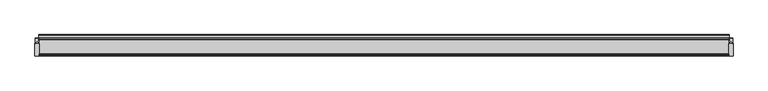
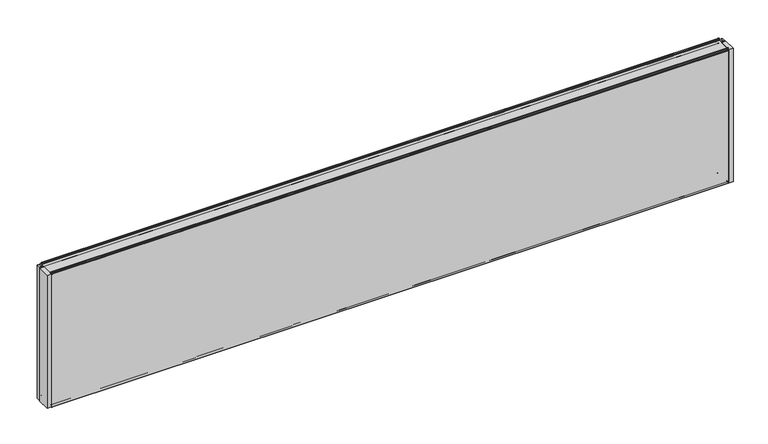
"""IFC4 building model written with IfcOpenShell, lengths in millimetres: plate geometry, Fronttop : Fronttop 150/1000."""

from ifc_helpers import new_model, si_unit, point, frame, frame_2d, origin, origin_with_axes, place, context, project, spatial, polyline, circle_curve, trimmed, segment, composite_curve, outline, extrude, source, transform, mapped, element, save
from ifc_brep_helpers import plane_surface, cylinder_surface, revolved_surface, advanced_brep


def plate_2167fe72(model_context):
    return source(origin(), model_context, "Body", "SolidModel", [
        advanced_brep(
        [(-2404.0, 124.0, 1008.0), (-2404.0, 121.0, 1008.0), (-2404.0, 121.0, 1004.0), (-2404.0, 117.0, 1000.0), (-2404.0, 115.0, 1000.0), (-2404.0, 115.0, 1001.0), (-2404.0, 117.0, 1001.0), (-2404.0, 120.0, 1004.0), (-2404.0, 120.0, 1008.0), (-2404.0, 125.0, 1008.0), (-2404.0, 125.0, 1000.0), (-2404.0, 124.0, 1000.0), (2404.0, 125.0, 1008.0), (2404.0, 120.0, 1008.0), (2404.0, 120.0, 1004.0), (2404.0, 117.0, 1001.0), (2404.0, 115.0, 1001.0), (2404.0, 115.0, 1000.0), (2404.0, 117.0, 1000.0), (2404.0, 121.0, 1004.0), (2404.0, 121.0, 1008.0), (2404.0, 124.0, 1008.0), (2404.0, 124.0, 1000.0), (2404.0, 125.0, 1000.0), (-2404.0, 117.0, 2.0), (2404.0, 117.0, 2.0), (2404.0, 115.0, 2.0), (-2404.0, 115.0, 2.0), (-2404.0, 119.0, 4.0), (2404.0, 119.0, 4.0), (-2404.0, 119.0, 8.0), (2404.0, 119.0, 8.0), (-2404.0, 126.0, 8.0), (2404.0, 126.0, 8.0), (-2404.0, 126.0, 0.0), (2404.0, 126.0, 0.0), (-2404.0, 129.0, -3.0), (2404.0, 129.0, -3.0), (-2404.0, 125.0, -3.0), (-2405.0, 125.0, -3.0), (-2405.0, 147.0, -3.0), (-2404.0, 147.0, -3.0), (2404.0, 147.0, -3.0), (2405.0, 147.0, -3.0), (2405.0, 125.0, -3.0), (2404.0, 125.0, -3.0), (-2404.0, 150.0, 0.0), (2404.0, 150.0, 0.0), (-2405.0, 150.0, 0.0), (-2405.0, 150.0, 969.0), (-2404.0, 150.0, 969.0), (2404.0, 150.0, 969.0), (2405.0, 150.0, 969.0), (2405.0, 150.0, 0.0), (-2404.0, 147.0, 972.0), (2404.0, 147.0, 972.0), (-2405.0, 147.0, 972.0), (-2405.0, 128.0, 972.0), (-2404.0, 128.0, 972.0), (2404.0, 128.0, 972.0), (2405.0, 128.0, 972.0), (2405.0, 147.0, 972.0), (-2404.0, 125.0, 975.0), (2404.0, 125.0, 975.0), (-2405.0, 125.0, 975.0), (-2405.0, 125.0, 1000.0), (2405.0, 125.0, 1000.0), (2405.0, 125.0, 975.0), (-2404.0, 124.0, 975.0), (2404.0, 124.0, 975.0), (-2404.0, 128.0, 971.0), (2404.0, 128.0, 971.0), (-2404.0, 147.0, 971.0), (2404.0, 147.0, 971.0), (-2404.0, 149.0, 969.0), (2404.0, 149.0, 969.0), (-2404.0, 149.0, 0.0), (2404.0, 149.0, 0.0), (-2404.0, 147.0, -2.0), (2404.0, 147.0, -2.0), (-2404.0, 129.0, -2.0), (2404.0, 129.0, -2.0), (-2404.0, 127.0, 0.0), (2404.0, 127.0, 0.0), (-2404.0, 127.0, 8.0), (2404.0, 127.0, 8.0), (-2404.0, 118.0, 8.0), (2404.0, 118.0, 8.0), (-2404.0, 118.0, 4.0), (2404.0, 118.0, 4.0), (-2404.0, 117.0, 3.0), (2404.0, 117.0, 3.0), (-2404.0, 115.0, 3.0), (2404.0, 115.0, 3.0), (2405.0, 110.0, 1000.0), (2405.0, 110.0, 0.0), (2405.0, 125.0, 0.0), (2404.0, 125.0, 0.0), (2404.0, 110.0, 0.0), (2404.0, 110.0, 1000.0), (-2405.0, 125.0, 0.0), (-2405.0, 110.0, 0.0), (-2405.0, 110.0, 1000.0), (-2404.0, 110.0, 1000.0), (-2404.0, 110.0, 0.0), (-2404.0, 125.0, 0.0)],
        [
            (0, 1, circle_curve(frame((-2404.0, 122.5, 1008.0), z_axis=(1.0, 0.0, 0.0), x_axis=(0.0, -1.0, 0.0)), 1.5)),
            (1, 2),
            (2, 3, circle_curve(frame((-2404.0, 117.0, 1004.0), z_axis=(-1.0, 0.0, 0.0), x_axis=(0.0, -1.0, 0.0)), 4.0)),
            (3, 4),
            (4, 5),
            (5, 6),
            (6, 7, circle_curve(frame((-2404.0, 117.0, 1004.0), z_axis=(1.0, 0.0, 0.0), x_axis=(0.0, -1.0, 0.0)), 3.0)),
            (7, 8),
            (8, 9, circle_curve(frame((-2404.0, 122.5, 1008.0), z_axis=(-1.0, 0.0, 0.0), x_axis=(0.0, -1.0, 0.0)), 2.5)),
            (9, 10),
            (10, 11),
            (11, 0),
            (12, 13, circle_curve(frame((2404.0, 122.5, 1008.0), z_axis=(1.0, 0.0, 0.0), x_axis=(0.0, -1.0, 0.0)), 2.5)),
            (13, 14),
            (14, 15, circle_curve(frame((2404.0, 117.0, 1004.0), z_axis=(-1.0, 0.0, 0.0), x_axis=(0.0, -1.0, 0.0)), 3.0)),
            (15, 16),
            (16, 17),
            (17, 18),
            (18, 19, circle_curve(frame((2404.0, 117.0, 1004.0), z_axis=(1.0, 0.0, 0.0), x_axis=(0.0, -1.0, 0.0)), 4.0)),
            (19, 20),
            (20, 21, circle_curve(frame((2404.0, 122.5, 1008.0), z_axis=(-1.0, 0.0, 0.0), x_axis=(0.0, -1.0, 0.0)), 1.5)),
            (21, 22),
            (22, 23),
            (23, 12),
            (24, 25),
            (25, 26),
            (26, 27),
            (27, 24),
            (24, 28, circle_curve(frame((-2404.0, 117.0, 4.0), z_axis=(1.0, 0.0, 0.0), x_axis=(0.0, -1.0, 0.0)), 2.0)),
            (28, 29),
            (29, 25, circle_curve(frame((2404.0, 117.0, 4.0), z_axis=(-1.0, 0.0, 0.0), x_axis=(0.0, -1.0, 0.0)), 2.0)),
            (28, 30),
            (30, 31),
            (31, 29),
            (30, 32, circle_curve(frame((-2404.0, 122.5, 8.0), z_axis=(-1.0, 0.0, 0.0), x_axis=(0.0, -1.0, 0.0)), 3.5)),
            (32, 33),
            (33, 31, circle_curve(frame((2404.0, 122.5, 8.0), z_axis=(1.0, 0.0, 0.0), x_axis=(0.0, -1.0, 0.0)), 3.5)),
            (32, 34),
            (34, 35),
            (35, 33),
            (34, 36, circle_curve(frame((-2404.0, 129.0, 0.0), z_axis=(1.0, 0.0, 0.0), x_axis=(0.0, -1.0, 0.0)), 3.0)),
            (36, 37),
            (37, 35, circle_curve(frame((2404.0, 129.0, 0.0), z_axis=(-1.0, 0.0, 0.0), x_axis=(0.0, -1.0, 0.0)), 3.0)),
            (36, 38),
            (38, 39),
            (39, 40),
            (40, 41),
            (41, 42),
            (42, 43),
            (43, 44),
            (44, 45),
            (45, 37),
            (41, 46, circle_curve(frame((-2404.0, 147.0, 0.0), z_axis=(1.0, 0.0, 0.0), x_axis=(0.0, -1.0, 0.0)), 3.0)),
            (46, 47),
            (47, 42, circle_curve(frame((2404.0, 147.0, 0.0), z_axis=(-1.0, 0.0, 0.0), x_axis=(0.0, -1.0, 0.0)), 3.0)),
            (46, 48),
            (48, 49),
            (49, 50),
            (50, 51),
            (51, 52),
            (52, 53),
            (53, 47),
            (50, 54, circle_curve(frame((-2404.0, 147.0, 969.0), z_axis=(1.0, 0.0, 0.0), x_axis=(0.0, -1.0, 0.0)), 3.0)),
            (54, 55),
            (55, 51, circle_curve(frame((2404.0, 147.0, 969.0), z_axis=(-1.0, 0.0, 0.0), x_axis=(0.0, -1.0, 0.0)), 3.0)),
            (54, 56),
            (56, 57),
            (57, 58),
            (58, 59),
            (59, 60),
            (60, 61),
            (61, 55),
            (58, 62, circle_curve(frame((-2404.0, 128.0, 975.0), z_axis=(-1.0, 0.0, 0.0), x_axis=(0.0, -1.0, 0.0)), 3.0)),
            (62, 63),
            (63, 59, circle_curve(frame((2404.0, 128.0, 975.0), z_axis=(1.0, 0.0, 0.0), x_axis=(0.0, -1.0, 0.0)), 3.0)),
            (62, 64),
            (64, 65),
            (65, 10),
            (9, 12),
            (23, 66),
            (66, 67),
            (67, 63),
            (8, 13),
            (7, 14),
            (6, 15),
            (5, 16),
            (4, 17),
            (4, 3),
            (3, 18),
            (18, 17),
            (2, 19),
            (1, 20),
            (0, 21),
            (11, 68),
            (68, 69),
            (69, 22),
            (68, 70, circle_curve(frame((-2404.0, 128.0, 975.0), z_axis=(1.0, 0.0, 0.0), x_axis=(0.0, -1.0, 0.0)), 4.0)),
            (70, 71),
            (71, 69, circle_curve(frame((2404.0, 128.0, 975.0), z_axis=(-1.0, 0.0, 0.0), x_axis=(0.0, -1.0, 0.0)), 4.0)),
            (70, 72),
            (72, 73),
            (73, 71),
            (72, 74, circle_curve(frame((-2404.0, 147.0, 969.0), z_axis=(-1.0, 0.0, 0.0), x_axis=(0.0, -1.0, 0.0)), 2.0)),
            (74, 75),
            (75, 73, circle_curve(frame((2404.0, 147.0, 969.0), z_axis=(1.0, 0.0, 0.0), x_axis=(0.0, -1.0, 0.0)), 2.0)),
            (74, 76),
            (76, 77),
            (77, 75),
            (76, 78, circle_curve(frame((-2404.0, 147.0, 0.0), z_axis=(-1.0, 0.0, 0.0), x_axis=(0.0, -1.0, 0.0)), 2.0)),
            (78, 79),
            (79, 77, circle_curve(frame((2404.0, 147.0, 0.0), z_axis=(1.0, 0.0, 0.0), x_axis=(0.0, -1.0, 0.0)), 2.0)),
            (78, 80),
            (80, 81),
            (81, 79),
            (80, 82, circle_curve(frame((-2404.0, 129.0, 0.0), z_axis=(-1.0, 0.0, 0.0), x_axis=(0.0, -1.0, 0.0)), 2.0)),
            (82, 83),
            (83, 81, circle_curve(frame((2404.0, 129.0, 0.0), z_axis=(1.0, 0.0, 0.0), x_axis=(0.0, -1.0, 0.0)), 2.0)),
            (82, 84),
            (84, 85),
            (85, 83),
            (84, 86, circle_curve(frame((-2404.0, 122.5, 8.0), z_axis=(1.0, 0.0, 0.0), x_axis=(0.0, -1.0, 0.0)), 4.5)),
            (86, 87),
            (87, 85, circle_curve(frame((2404.0, 122.5, 8.0), z_axis=(-1.0, 0.0, 0.0), x_axis=(0.0, -1.0, 0.0)), 4.5)),
            (86, 88),
            (88, 89),
            (89, 87),
            (88, 90, circle_curve(frame((-2404.0, 117.0, 4.0), z_axis=(-1.0, 0.0, 0.0), x_axis=(0.0, -1.0, 0.0)), 1.0)),
            (90, 91),
            (91, 89, circle_curve(frame((2404.0, 117.0, 4.0), z_axis=(1.0, 0.0, 0.0), x_axis=(0.0, -1.0, 0.0)), 1.0)),
            (90, 92),
            (92, 93),
            (93, 91),
            (26, 93),
            (92, 27),
            (66, 94),
            (94, 95),
            (95, 96),
            (96, 44),
            (43, 53, circle_curve(frame((2405.0, 147.0, 0.0), z_axis=(1.0, 0.0, 0.0), x_axis=(0.0, 1.0, 0.0)), 3.0)),
            (52, 61, circle_curve(frame((2405.0, 147.0, 969.0), z_axis=(1.0, 0.0, 0.0), x_axis=(0.0, 1.0, 0.0)), 3.0)),
            (60, 67, circle_curve(frame((2405.0, 128.0, 975.0), z_axis=(-1.0, 0.0, 0.0), x_axis=(0.0, 1.0, 0.0)), 3.0)),
            (45, 97),
            (97, 98),
            (98, 99),
            (99, 17),
            (18, 22),
            (99, 94),
            (98, 95),
            (97, 96),
            (64, 57, circle_curve(frame((-2405.0, 128.0, 975.0), z_axis=(1.0, 0.0, 0.0), x_axis=(0.0, 1.0, 0.0)), 3.0)),
            (56, 49, circle_curve(frame((-2405.0, 147.0, 969.0), z_axis=(-1.0, 0.0, 0.0), x_axis=(0.0, 1.0, 0.0)), 3.0)),
            (48, 40, circle_curve(frame((-2405.0, 147.0, 0.0), z_axis=(-1.0, 0.0, 0.0), x_axis=(0.0, 1.0, 0.0)), 3.0)),
            (39, 100),
            (100, 101),
            (101, 102),
            (102, 65),
            (103, 104),
            (104, 105),
            (105, 38),
            (11, 3),
            (4, 103),
            (102, 103),
            (101, 104),
            (100, 105),
        ],
        [
            plane_surface(frame((-2404.0, 0.0, 0.0), z_axis=(-1.0, 0.0, 0.0), x_axis=(0.0, 0.0, 1.0))),
            plane_surface(frame((2404.0, 0.0, 0.0), z_axis=(1.0, 0.0, 0.0), x_axis=(0.0, 0.0, 1.0))),
            plane_surface(frame((-2404.0, 117.0, 2.0), z_axis=(0.0, 0.0, -1.0), x_axis=(1.0, 0.0, 0.0))),
            cylinder_surface(frame((-2404.0, 117.0, 4.0), z_axis=(-1.0, 0.0, 0.0), x_axis=(0.0, -1.0, 0.0)), 2.0),
            plane_surface(frame((-2404.0, 119.0, 8.0), z_axis=(0.0, 1.0, 0.0), x_axis=(1.0, 0.0, 0.0))),
            revolved_surface(polyline([(2404.0, 119.0, 8.0), (-2404.0, 119.0, 8.0)]), (-2404.0, 122.5, 8.0), (1.0, 0.0, 0.0)),
            plane_surface(frame((-2404.0, 126.0, 0.0), z_axis=(0.0, -1.0, 0.0), x_axis=(1.0, 0.0, 0.0))),
            cylinder_surface(frame((-2404.0, 129.0, 0.0), z_axis=(-1.0, 0.0, 0.0), x_axis=(0.0, -1.0, 0.0)), 3.0),
            plane_surface(frame((-2404.0, 147.0, -3.0), z_axis=(0.0, 0.0, -1.0), x_axis=(1.0, 0.0, 0.0))),
            cylinder_surface(frame((-2404.0, 147.0, 0.0), z_axis=(-1.0, 0.0, 0.0), x_axis=(0.0, -1.0, 0.0)), 3.0),
            plane_surface(frame((-2404.0, 150.0, 969.0), z_axis=(0.0, 1.0, 0.0), x_axis=(1.0, 0.0, 0.0))),
            cylinder_surface(frame((-2404.0, 147.0, 969.0), z_axis=(-1.0, 0.0, 0.0), x_axis=(0.0, -1.0, 0.0)), 3.0),
            plane_surface(frame((-2404.0, 128.0, 972.0), z_axis=(0.0, 0.0, 1.0), x_axis=(1.0, 0.0, 0.0))),
            revolved_surface(polyline([(2404.0, 125.0, 975.0), (-2404.0, 125.0, 975.0)]), (-2404.0, 128.0, 975.0), (1.0, 0.0, 0.0)),
            plane_surface(frame((-2404.0, 125.0, 1008.0), z_axis=(0.0, 1.0, 0.0), x_axis=(1.0, 0.0, 0.0))),
            cylinder_surface(frame((-2404.0, 122.5, 1008.0), z_axis=(-1.0, 0.0, 0.0), x_axis=(0.0, -1.0, 0.0)), 2.5),
            plane_surface(frame((-2404.0, 120.0, 1004.0), z_axis=(0.0, -1.0, 0.0), x_axis=(1.0, 0.0, 0.0))),
            revolved_surface(polyline([(2404.0, 114.0, 1004.0), (-2404.0, 114.0, 1004.0)]), (-2404.0, 117.0, 1004.0), (1.0, 0.0, 0.0)),
            plane_surface(frame((-2404.0, 115.0, 1001.0), z_axis=(0.0, 0.0, 1.0), x_axis=(1.0, 0.0, 0.0))),
            plane_surface(frame((-2404.0, 115.0, 1000.0), z_axis=(0.0, -1.0, 0.0), x_axis=(1.0, 0.0, 0.0))),
            plane_surface(frame((-2404.0, 117.0, 1000.0), z_axis=(0.0, 0.0, -1.0), x_axis=(1.0, 0.0, 0.0))),
            cylinder_surface(frame((-2404.0, 117.0, 1004.0), z_axis=(-1.0, 0.0, 0.0), x_axis=(0.0, -1.0, 0.0)), 4.0),
            plane_surface(frame((-2404.0, 121.0, 1008.0), z_axis=(0.0, 1.0, 0.0), x_axis=(1.0, 0.0, 0.0))),
            revolved_surface(polyline([(2404.0, 121.0, 1008.0), (-2404.0, 121.0, 1008.0)]), (-2404.0, 122.5, 1008.0), (1.0, 0.0, 0.0)),
            plane_surface(frame((-2404.0, 124.0, 975.0), z_axis=(0.0, -1.0, 0.0), x_axis=(1.0, 0.0, 0.0))),
            cylinder_surface(frame((-2404.0, 128.0, 975.0), z_axis=(-1.0, 0.0, 0.0), x_axis=(0.0, -1.0, 0.0)), 4.0),
            plane_surface(frame((-2404.0, 147.0, 971.0), z_axis=(0.0, 0.0, -1.0), x_axis=(1.0, 0.0, 0.0))),
            revolved_surface(polyline([(2404.0, 145.0, 969.0), (-2404.0, 145.0, 969.0)]), (-2404.0, 147.0, 969.0), (1.0, 0.0, 0.0)),
            plane_surface(frame((-2404.0, 149.0, 0.0), z_axis=(0.0, -1.0, 0.0), x_axis=(1.0, 0.0, 0.0))),
            revolved_surface(polyline([(2404.0, 145.0, 0.0), (-2404.0, 145.0, 0.0)]), (-2404.0, 147.0, 0.0), (1.0, 0.0, 0.0)),
            plane_surface(frame((-2404.0, 129.0, -2.0), z_axis=(0.0, 0.0, 1.0), x_axis=(1.0, 0.0, 0.0))),
            revolved_surface(polyline([(2404.0, 127.0, 0.0), (-2404.0, 127.0, 0.0)]), (-2404.0, 129.0, 0.0), (1.0, 0.0, 0.0)),
            plane_surface(frame((-2404.0, 127.0, 8.0), z_axis=(0.0, 1.0, 0.0), x_axis=(1.0, 0.0, 0.0))),
            cylinder_surface(frame((-2404.0, 122.5, 8.0), z_axis=(-1.0, 0.0, 0.0), x_axis=(0.0, -1.0, 0.0)), 4.5),
            plane_surface(frame((-2404.0, 118.0, 4.0), z_axis=(0.0, -1.0, 0.0), x_axis=(1.0, 0.0, 0.0))),
            revolved_surface(polyline([(2404.0, 116.0, 4.0), (-2404.0, 116.0, 4.0)]), (-2404.0, 117.0, 4.0), (1.0, 0.0, 0.0)),
            plane_surface(frame((-2404.0, 115.0, 3.0), z_axis=(0.0, 0.0, 1.0), x_axis=(1.0, 0.0, 0.0))),
            plane_surface(frame((-2404.0, 115.0, 2.0), z_axis=(0.0, -1.0, 0.0), x_axis=(1.0, 0.0, 0.0))),
            plane_surface(frame((2405.0, 125.0, 1000.0), z_axis=(1.0, 0.0, 0.0), x_axis=(0.0, -1.0, 0.0))),
            plane_surface(frame((2404.0, 125.0, 1000.0), z_axis=(-1.0, 0.0, 0.0), x_axis=(0.0, 1.0, 0.0))),
            plane_surface(frame((2405.0, 125.0, 1000.0), z_axis=(0.0, 0.0, 1.0), x_axis=(-1.0, 0.0, 0.0))),
            plane_surface(frame((2405.0, 110.0, 1000.0), z_axis=(0.0, -1.0, 0.0), x_axis=(-1.0, 0.0, 0.0))),
            plane_surface(frame((2405.0, 110.0, 0.0), z_axis=(0.0, 0.0, -1.0), x_axis=(-1.0, 0.0, 0.0))),
            cylinder_surface(frame((2404.0, 147.0, 0.0), z_axis=(1.0, 0.0, 0.0), x_axis=(0.0, 1.0, 0.0)), 3.0),
            cylinder_surface(frame((2404.0, 147.0, 969.0), z_axis=(1.0, 0.0, 0.0), x_axis=(0.0, 1.0, 0.0)), 3.0),
            revolved_surface(polyline([(2404.0, 131.0, 975.0), (2405.0, 131.0, 975.0)]), (2404.0, 128.0, 975.0), (-1.0, 0.0, 0.0)),
            plane_surface(frame((-2405.0, 125.0, 1000.0), z_axis=(-1.0, 0.0, 0.0), x_axis=(0.0, 1.0, 0.0))),
            plane_surface(frame((-2404.0, 125.0, 1000.0), z_axis=(1.0, 0.0, 0.0), x_axis=(0.0, -1.0, 0.0))),
            plane_surface(frame((-2404.0, 125.0, 1000.0), z_axis=(0.0, 0.0, 1.0), x_axis=(-1.0, 0.0, 0.0))),
            plane_surface(frame((-2404.0, 110.0, 1000.0), z_axis=(0.0, -1.0, 0.0), x_axis=(-1.0, 0.0, 0.0))),
            plane_surface(frame((-2404.0, 110.0, 0.0), z_axis=(0.0, 0.0, -1.0), x_axis=(-1.0, 0.0, 0.0))),
            cylinder_surface(frame((-2405.0, 147.0, 0.0), z_axis=(1.0, 0.0, 0.0), x_axis=(0.0, 1.0, 0.0)), 3.0),
            cylinder_surface(frame((-2405.0, 147.0, 969.0), z_axis=(1.0, 0.0, 0.0), x_axis=(0.0, 1.0, 0.0)), 3.0),
            revolved_surface(polyline([(-2405.0, 131.0, 975.0), (-2404.0, 131.0, 975.0)]), (-2405.0, 128.0, 975.0), (-1.0, 0.0, 0.0)),
            plane_surface(frame((2405.0, 125.0, 0.0), z_axis=(0.0, -1.0, 0.0), x_axis=(-1.0, 0.0, 0.0))),
            plane_surface(frame((-2404.0, 125.0, 0.0), z_axis=(0.0, -1.0, 0.0), x_axis=(-1.0, 0.0, 0.0))),
        ],
        [
            (0, [[1, 2, 3, 4, 5, 6, 7, 8, 9, 10, 11, 12]]),
            (1, [[13, 14, 15, 16, 17, 18, 19, 20, 21, 22, 23, 24]]),
            (2, [[25, 26, 27, 28]]),
            (3, [[-25, 29, 30, 31]]),
            (4, [[-30, 32, 33, 34]]),
            (5, [[-33, 35, 36, 37]]),
            (6, [[-36, 38, 39, 40]]),
            (7, [[-39, 41, 42, 43]]),
            (8, [[-42, 44, 45, 46, 47, 48, 49, 50, 51, 52]]),
            (9, [[-48, 53, 54, 55]]),
            (10, [[-54, 56, 57, 58, 59, 60, 61, 62]]),
            (11, [[-59, 63, 64, 65]]),
            (12, [[-64, 66, 67, 68, 69, 70, 71, 72]]),
            (13, [[-69, 73, 74, 75]]),
            (14, [[-74, 76, 77, 78, -10, 79, -24, 80, 81, 82]]),
            (15, [[-9, 83, -13, -79]]),
            (16, [[-8, 84, -14, -83]]),
            (17, [[-7, 85, -15, -84]]),
            (18, [[-6, 86, -16, -85]]),
            (19, [[-5, 87, -17, -86]]),
            (20, [[-87, 88, 89, 90]]),
            (21, [[-3, 91, -19, -89]]),
            (22, [[-2, 92, -20, -91]]),
            (23, [[-1, 93, -21, -92]]),
            (24, [[-93, -12, 94, 95, 96, -22]]),
            (25, [[-95, 97, 98, 99]]),
            (26, [[-98, 100, 101, 102]]),
            (27, [[-101, 103, 104, 105]]),
            (28, [[-104, 106, 107, 108]]),
            (29, [[-107, 109, 110, 111]]),
            (30, [[-110, 112, 113, 114]]),
            (31, [[-113, 115, 116, 117]]),
            (32, [[-116, 118, 119, 120]]),
            (33, [[-119, 121, 122, 123]]),
            (34, [[-122, 124, 125, 126]]),
            (35, [[-125, 127, 128, 129]]),
            (36, [[-128, 130, 131, 132]]),
            (37, [[-27, 133, -131, 134]]),
            (38, [[135, 136, 137, 138, -50, 139, -61, 140, -71, 141, -81]]),
            (39, [[142, 143, 144, 145, -90, 146, -96, -99, -102, -105, -108, -111, -114, -117, -120, -123, -126, -129, -132, -133, -26, -31, -34, -37, -40, -43, -52]]),
            (40, [[-135, -80, -23, -146, -18, -145, 147]]),
            (41, [[-136, -147, -144, 148]]),
            (42, [[-137, -148, -143, 149]]),
            (43, [[-139, -49, -55, -62]]),
            (44, [[-140, -60, -65, -72]]),
            (45, [[-141, -70, -75, -82]]),
            (46, [[-77, 150, -67, 151, -57, 152, -46, 153, 154, 155, 156]]),
            (47, [[157, 158, 159, -44, -41, -38, -35, -32, -29, -28, -134, -130, -127, -124, -121, -118, -115, -112, -109, -106, -103, -100, -97, -94, 160, -88, 161]]),
            (48, [[-156, 162, -161, -4, -160, -11, -78]]),
            (49, [[-155, 163, -157, -162]]),
            (50, [[-154, 164, -158, -163]]),
            (51, [[-152, -56, -53, -47]]),
            (52, [[-151, -66, -63, -58]]),
            (53, [[-150, -76, -73, -68]]),
            (54, [[-138, -149, -142, -51]]),
            (55, [[-153, -45, -159, -164]]),
        ],
    ),
        extrude(outline(composite_curve([segment(polyline([(-2430.0001545, 123.5), (-2418.25, 123.5), (-2418.25, 107.5), (-2416.75, 107.5), (-2416.75, 123.5), (-2404.9998455, 123.5), (-2404.9998455, 90.0), (-2407.75, 90.0), (-2407.75, 92.5)]), True, "CONTINUOUS"), segment(trimmed(circle_curve(frame_2d((-2425.5338021, 89.3183984)), 18.0661619), [point((-2407.75, 92.5))], [point((-2417.5, 105.5))], True, "CARTESIAN"), True, "CONTINUOUS"), segment(trimmed(circle_curve(frame_2d((-2409.4661979, 89.3183984)), 18.0661619), [point((-2417.5, 105.5))], [point((-2427.25, 92.5))], True, "CARTESIAN"), True, "CONTINUOUS"), segment(polyline([(-2427.25, 92.5), (-2427.25, 90.0), (-2430.0001545, 90.0), (-2430.0001545, 123.5)]), True, "CONTINUOUS")], self_intersect=False)), origin_with_axes(), (0.0, 0.0, 1.0), 1000.0),
        extrude(outline(polyline([(-2402.0, 0.0), (-2433.0, 0.0), (-2433.0, 88.0), (-2402.0, 88.0), (-2402.0, 0.0)])), origin_with_axes(), (0.0, 0.0, 1.0), 1000.0),
        extrude(outline(polyline([(-2429.0051154, 125.0), (-2405.9948846, 125.0), (-2405.9948846, 123.5), (-2416.8497504, 123.5), (-2416.8497504, 109.0759655), (-2418.15, 109.0759655), (-2418.15, 123.5), (-2429.0051154, 123.5), (-2429.0051154, 125.0)])), origin_with_axes(), (0.0, 0.0, 1.0), 1000.0),
        extrude(outline(composite_curve([segment(polyline([(2404.9998455, 123.5), (2416.75, 123.5), (2416.75, 107.5), (2418.25, 107.5), (2418.25, 123.5), (2430.0001545, 123.5), (2430.0001545, 90.0), (2427.25, 90.0), (2427.25, 92.5)]), True, "CONTINUOUS"), segment(trimmed(circle_curve(frame_2d((2409.4661979, 89.3183984)), 18.0661619), [point((2427.25, 92.5))], [point((2417.5, 105.5))], True, "CARTESIAN"), True, "CONTINUOUS"), segment(trimmed(circle_curve(frame_2d((2425.5338021, 89.3183984)), 18.0661619), [point((2417.5, 105.5))], [point((2407.75, 92.5))], True, "CARTESIAN"), True, "CONTINUOUS"), segment(polyline([(2407.75, 92.5), (2407.75, 90.0), (2404.9998455, 90.0), (2404.9998455, 123.5)]), True, "CONTINUOUS")], self_intersect=False)), origin_with_axes(), (0.0, 0.0, 1.0), 1000.0),
        extrude(outline(polyline([(2433.0, 0.0), (2402.0, 0.0), (2402.0, 88.0), (2433.0, 88.0), (2433.0, 0.0)])), origin_with_axes(), (0.0, 0.0, 1.0), 1000.0),
        extrude(outline(polyline([(2405.9948846, 125.0), (2429.0051154, 125.0), (2429.0051154, 123.5), (2418.1502496, 123.5), (2418.1502496, 109.0759655), (2416.85, 109.0759655), (2416.85, 123.5), (2405.9948846, 123.5), (2405.9948846, 125.0)])), origin_with_axes(), (0.0, 0.0, 1.0), 1000.0),
        advanced_brep(
        [(-2402.0, 13.0, 1001.0), (-2402.0, 15.0, 1001.0), (-2402.0, 15.0, 1000.0), (-2402.0, 13.0, 1000.0), (-2402.0, 9.0, 1004.0), (-2402.0, 9.0, 1008.0), (-2402.0, 6.0, 1008.0), (-2402.0, 6.0, 999.5), (-2402.0, 2.1134897, 996.0214069), (-2402.0, 1.0, 995.0), (-2402.0, 1.0, -0.5), (-2402.0, 3.0, -0.5), (-2402.0, 3.0, 8.0), (-2402.0, 12.0, 8.0), (-2402.0, 12.0, 4.0), (-2402.0, 13.0, 3.0), (-2402.0, 15.0, 3.0), (-2402.0, 15.0, 2.0), (-2402.0, 13.0, 2.0), (-2402.0, 11.0, 4.0), (-2402.0, 11.0, 8.0), (-2402.0, 4.0, 8.0), (-2402.0, 4.0, -0.5), (-2402.0, 0.0, -0.5), (-2402.0, 0.0, 995.0), (-2402.0, 2.220863, 996.9877675), (-2402.0, 5.0, 999.5), (-2402.0, 5.0, 1008.0), (-2402.0, 10.0, 1008.0), (-2402.0, 10.0, 1004.0), (2402.0, 13.0, 1001.0), (2402.0, 10.0, 1004.0), (2402.0, 10.0, 1008.0), (2402.0, 5.0, 1008.0), (2402.0, 5.0, 999.5), (2402.0, 2.2239212, 997.0152907), (2402.0, 0.0, 995.0), (2402.0, 0.0, -0.5), (2402.0, 4.0, -0.5), (2402.0, 4.0, 8.0), (2402.0, 11.0, 8.0), (2402.0, 11.0, 4.0), (2402.0, 13.0, 2.0), (2402.0, 15.0, 2.0), (2402.0, 15.0, 3.0), (2402.0, 13.0, 3.0), (2402.0, 12.0, 4.0), (2402.0, 12.0, 8.0), (2402.0, 3.0, 8.0), (2402.0, 3.0, -0.5), (2402.0, 1.0, -0.5), (2402.0, 1.0, 995.0), (2402.0, 2.1104315, 995.9938837), (2402.0, 6.0, 999.5), (2402.0, 6.0, 1008.0), (2402.0, 9.0, 1008.0), (2402.0, 9.0, 1004.0), (2402.0, 13.0, 1000.0), (2402.0, 15.0, 1000.0), (2402.0, 15.0, 1001.0)],
        [
            (0, 1),
            (1, 2),
            (2, 3),
            (3, 4, circle_curve(frame((-2402.0, 13.0, 1004.0), z_axis=(-1.0, 0.0, 0.0), x_axis=(0.0, -1.0, 0.0)), 4.0)),
            (4, 5),
            (5, 6, circle_curve(frame((-2402.0, 7.5, 1008.0), z_axis=(1.0, 0.0, 0.0), x_axis=(0.0, -1.0, 0.0)), 1.5)),
            (6, 7),
            (7, 8, circle_curve(frame((-2402.0, 2.5, 999.5), z_axis=(-1.0, 0.0, 0.0), x_axis=(0.0, -1.0, 0.0)), 3.5)),
            (8, 9, circle_curve(frame((-2402.0, 2.0, 995.0), z_axis=(1.0, 0.0, 0.0), x_axis=(0.0, -1.0, 0.0)), 1.0)),
            (9, 10),
            (10, 11, circle_curve(frame((-2402.0, 2.0, -0.5), z_axis=(1.0, 0.0, 0.0), x_axis=(0.0, -1.0, 0.0)), 1.0)),
            (11, 12),
            (12, 13, circle_curve(frame((-2402.0, 7.5, 8.0), z_axis=(-1.0, 0.0, 0.0), x_axis=(0.0, -1.0, 0.0)), 4.5)),
            (13, 14),
            (14, 15, circle_curve(frame((-2402.0, 13.0, 4.0), z_axis=(1.0, 0.0, 0.0), x_axis=(0.0, -1.0, 0.0)), 1.0)),
            (15, 16),
            (16, 17),
            (17, 18),
            (18, 19, circle_curve(frame((-2402.0, 13.0, 4.0), z_axis=(-1.0, 0.0, 0.0), x_axis=(0.0, -1.0, 0.0)), 2.0)),
            (19, 20),
            (20, 21, circle_curve(frame((-2402.0, 7.5, 8.0), z_axis=(1.0, 0.0, 0.0), x_axis=(0.0, -1.0, 0.0)), 3.5)),
            (21, 22),
            (22, 23, circle_curve(frame((-2402.0, 2.0, -0.5), z_axis=(-1.0, 0.0, 0.0), x_axis=(0.0, -1.0, 0.0)), 2.0)),
            (23, 24),
            (24, 25, circle_curve(frame((-2402.0, 2.0, 995.0), z_axis=(-1.0, 0.0, 0.0), x_axis=(0.0, -1.0, 0.0)), 2.0)),
            (25, 26, circle_curve(frame((-2402.0, 2.5, 999.5), z_axis=(1.0, 0.0, 0.0), x_axis=(0.0, -1.0, 0.0)), 2.5)),
            (26, 27),
            (27, 28, circle_curve(frame((-2402.0, 7.5, 1008.0), z_axis=(-1.0, 0.0, 0.0), x_axis=(0.0, -1.0, 0.0)), 2.5)),
            (28, 29),
            (29, 0, circle_curve(frame((-2402.0, 13.0, 1004.0), z_axis=(1.0, 0.0, 0.0), x_axis=(0.0, -1.0, 0.0)), 3.0)),
            (30, 31, circle_curve(frame((2402.0, 13.0, 1004.0), z_axis=(-1.0, 0.0, 0.0), x_axis=(0.0, -1.0, 0.0)), 3.0)),
            (31, 32),
            (32, 33, circle_curve(frame((2402.0, 7.5, 1008.0), z_axis=(1.0, 0.0, 0.0), x_axis=(0.0, -1.0, 0.0)), 2.5)),
            (33, 34),
            (34, 35, circle_curve(frame((2402.0, 2.5, 999.5), z_axis=(-1.0, 0.0, 0.0), x_axis=(0.0, -1.0, 0.0)), 2.5)),
            (35, 36, circle_curve(frame((2402.0, 2.0, 995.0), z_axis=(1.0, 0.0, 0.0), x_axis=(0.0, -1.0, 0.0)), 2.0)),
            (36, 37),
            (37, 38, circle_curve(frame((2402.0, 2.0, -0.5), z_axis=(1.0, 0.0, 0.0), x_axis=(0.0, -1.0, 0.0)), 2.0)),
            (38, 39),
            (39, 40, circle_curve(frame((2402.0, 7.5, 8.0), z_axis=(-1.0, 0.0, 0.0), x_axis=(0.0, -1.0, 0.0)), 3.5)),
            (40, 41),
            (41, 42, circle_curve(frame((2402.0, 13.0, 4.0), z_axis=(1.0, 0.0, 0.0), x_axis=(0.0, -1.0, 0.0)), 2.0)),
            (42, 43),
            (43, 44),
            (44, 45),
            (45, 46, circle_curve(frame((2402.0, 13.0, 4.0), z_axis=(-1.0, 0.0, 0.0), x_axis=(0.0, -1.0, 0.0)), 1.0)),
            (46, 47),
            (47, 48, circle_curve(frame((2402.0, 7.5, 8.0), z_axis=(1.0, 0.0, 0.0), x_axis=(0.0, -1.0, 0.0)), 4.5)),
            (48, 49),
            (49, 50, circle_curve(frame((2402.0, 2.0, -0.5), z_axis=(-1.0, 0.0, 0.0), x_axis=(0.0, -1.0, 0.0)), 1.0)),
            (50, 51),
            (51, 52, circle_curve(frame((2402.0, 2.0, 995.0), z_axis=(-1.0, 0.0, 0.0), x_axis=(0.0, -1.0, 0.0)), 1.0)),
            (52, 53, circle_curve(frame((2402.0, 2.5, 999.5), z_axis=(1.0, 0.0, 0.0), x_axis=(0.0, -1.0, 0.0)), 3.5)),
            (53, 54),
            (54, 55, circle_curve(frame((2402.0, 7.5, 1008.0), z_axis=(-1.0, 0.0, 0.0), x_axis=(0.0, -1.0, 0.0)), 1.5)),
            (55, 56),
            (56, 57, circle_curve(frame((2402.0, 13.0, 1004.0), z_axis=(1.0, 0.0, 0.0), x_axis=(0.0, -1.0, 0.0)), 4.0)),
            (57, 58),
            (58, 59),
            (59, 30),
            (0, 30),
            (59, 1),
            (58, 2),
            (57, 3),
            (56, 4),
            (55, 5),
            (54, 6),
            (53, 7),
            (52, 8),
            (51, 9),
            (50, 10),
            (49, 11),
            (48, 12),
            (47, 13),
            (46, 14),
            (45, 15),
            (44, 16),
            (43, 17),
            (42, 18),
            (41, 19),
            (40, 20),
            (39, 21),
            (38, 22),
            (37, 23),
            (36, 24),
            (35, 25),
            (34, 26),
            (33, 27),
            (32, 28),
            (31, 29),
        ],
        [
            plane_surface(frame((-2402.0, 0.0, 0.0), z_axis=(-1.0, 0.0, 0.0), x_axis=(0.0, 0.0, 1.0))),
            plane_surface(frame((2402.0, 0.0, 0.0), z_axis=(1.0, 0.0, 0.0), x_axis=(0.0, 0.0, 1.0))),
            plane_surface(frame((-2402.0, 13.0, 1001.0), z_axis=(0.0, 0.0, 1.0), x_axis=(1.0, 0.0, 0.0))),
            plane_surface(frame((-2402.0, 15.0, 1001.0), z_axis=(0.0, 1.0, 0.0), x_axis=(1.0, 0.0, 0.0))),
            plane_surface(frame((-2402.0, 15.0, 1000.0), z_axis=(0.0, 0.0, -1.0), x_axis=(1.0, 0.0, 0.0))),
            cylinder_surface(frame((-2402.0, 13.0, 1004.0), z_axis=(-1.0, 0.0, 0.0), x_axis=(0.0, -1.0, 0.0)), 4.0),
            plane_surface(frame((-2402.0, 9.0, 1004.0), z_axis=(0.0, -1.0, 0.0), x_axis=(1.0, 0.0, 0.0))),
            revolved_surface(polyline([(2402.0, 6.0, 1008.0), (-2402.0, 6.0, 1008.0)]), (-2402.0, 7.5, 1008.0), (1.0, 0.0, 0.0)),
            plane_surface(frame((-2402.0, 6.0, 1008.0), z_axis=(0.0, 1.0, 0.0), x_axis=(1.0, 0.0, 0.0))),
            cylinder_surface(frame((-2402.0, 2.5, 999.5), z_axis=(-1.0, 0.0, 0.0), x_axis=(0.0, -1.0, 0.0)), 3.5),
            revolved_surface(polyline([(2402.0, 1.0, 995.0), (-2402.0, 1.0, 995.0)]), (-2402.0, 2.0, 995.0), (1.0, 0.0, 0.0)),
            plane_surface(frame((-2402.0, 1.0, 995.0), z_axis=(0.0, 1.0, 0.0), x_axis=(1.0, 0.0, 0.0))),
            revolved_surface(polyline([(2402.0, 1.0, -0.5), (-2402.0, 1.0, -0.5)]), (-2402.0, 2.0, -0.5), (1.0, 0.0, 0.0)),
            plane_surface(frame((-2402.0, 3.0, -0.5), z_axis=(0.0, -1.0, 0.0), x_axis=(1.0, 0.0, 0.0))),
            cylinder_surface(frame((-2402.0, 7.5, 8.0), z_axis=(-1.0, 0.0, 0.0), x_axis=(0.0, -1.0, 0.0)), 4.5),
            plane_surface(frame((-2402.0, 12.0, 8.0), z_axis=(0.0, 1.0, 0.0), x_axis=(1.0, 0.0, 0.0))),
            revolved_surface(polyline([(2402.0, 12.0, 4.0), (-2402.0, 12.0, 4.0)]), (-2402.0, 13.0, 4.0), (1.0, 0.0, 0.0)),
            plane_surface(frame((-2402.0, 13.0, 3.0), z_axis=(0.0, 0.0, 1.0), x_axis=(1.0, 0.0, 0.0))),
            plane_surface(frame((-2402.0, 15.0, 3.0), z_axis=(0.0, 1.0, 0.0), x_axis=(1.0, 0.0, 0.0))),
            plane_surface(frame((-2402.0, 15.0, 2.0), z_axis=(0.0, 0.0, -1.0), x_axis=(1.0, 0.0, 0.0))),
            cylinder_surface(frame((-2402.0, 13.0, 4.0), z_axis=(-1.0, 0.0, 0.0), x_axis=(0.0, -1.0, 0.0)), 2.0),
            plane_surface(frame((-2402.0, 11.0, 4.0), z_axis=(0.0, -1.0, 0.0), x_axis=(1.0, 0.0, 0.0))),
            revolved_surface(polyline([(2402.0, 4.0, 8.0), (-2402.0, 4.0, 8.0)]), (-2402.0, 7.5, 8.0), (1.0, 0.0, 0.0)),
            plane_surface(frame((-2402.0, 4.0, 8.0), z_axis=(0.0, 1.0, 0.0), x_axis=(1.0, 0.0, 0.0))),
            cylinder_surface(frame((-2402.0, 2.0, -0.5), z_axis=(-1.0, 0.0, 0.0), x_axis=(0.0, -1.0, 0.0)), 2.0),
            plane_surface(frame((-2402.0, 0.0, -0.5), z_axis=(0.0, -1.0, 0.0), x_axis=(1.0, 0.0, 0.0))),
            cylinder_surface(frame((-2402.0, 2.0, 995.0), z_axis=(-1.0, 0.0, 0.0), x_axis=(0.0, -1.0, 0.0)), 2.0),
            revolved_surface(polyline([(2402.0, 0.0, 999.5), (-2402.0, 0.0, 999.5)]), (-2402.0, 2.5, 999.5), (1.0, 0.0, 0.0)),
            plane_surface(frame((-2402.0, 5.0, 999.5), z_axis=(0.0, -1.0, 0.0), x_axis=(1.0, 0.0, 0.0))),
            cylinder_surface(frame((-2402.0, 7.5, 1008.0), z_axis=(-1.0, 0.0, 0.0), x_axis=(0.0, -1.0, 0.0)), 2.5),
            plane_surface(frame((-2402.0, 10.0, 1008.0), z_axis=(0.0, 1.0, 0.0), x_axis=(1.0, 0.0, 0.0))),
            revolved_surface(polyline([(2402.0, 10.0, 1004.0), (-2402.0, 10.0, 1004.0)]), (-2402.0, 13.0, 1004.0), (1.0, 0.0, 0.0)),
        ],
        [
            (0, [[1, 2, 3, 4, 5, 6, 7, 8, 9, 10, 11, 12, 13, 14, 15, 16, 17, 18, 19, 20, 21, 22, 23, 24, 25, 26, 27, 28, 29, 30]]),
            (1, [[31, 32, 33, 34, 35, 36, 37, 38, 39, 40, 41, 42, 43, 44, 45, 46, 47, 48, 49, 50, 51, 52, 53, 54, 55, 56, 57, 58, 59, 60]]),
            (2, [[-1, 61, -60, 62]]),
            (3, [[-2, -62, -59, 63]]),
            (4, [[-3, -63, -58, 64]]),
            (5, [[-4, -64, -57, 65]]),
            (6, [[-5, -65, -56, 66]]),
            (7, [[-6, -66, -55, 67]]),
            (8, [[-7, -67, -54, 68]]),
            (9, [[-8, -68, -53, 69]]),
            (10, [[-9, -69, -52, 70]]),
            (11, [[-10, -70, -51, 71]]),
            (12, [[-11, -71, -50, 72]]),
            (13, [[-12, -72, -49, 73]]),
            (14, [[-13, -73, -48, 74]]),
            (15, [[-14, -74, -47, 75]]),
            (16, [[-15, -75, -46, 76]]),
            (17, [[-16, -76, -45, 77]]),
            (18, [[-17, -77, -44, 78]]),
            (19, [[-18, -78, -43, 79]]),
            (20, [[-19, -79, -42, 80]]),
            (21, [[-20, -80, -41, 81]]),
            (22, [[-21, -81, -40, 82]]),
            (23, [[-22, -82, -39, 83]]),
            (24, [[-23, -83, -38, 84]]),
            (25, [[-24, -84, -37, 85]]),
            (26, [[-25, -85, -36, 86]]),
            (27, [[-26, -86, -35, 87]]),
            (28, [[-27, -87, -34, 88]]),
            (29, [[-28, -88, -33, 89]]),
            (30, [[-29, -89, -32, 90]]),
            (31, [[-30, -90, -31, -61]]),
        ],
    ),
        extrude(outline(composite_curve([segment(polyline([(15.0, 3.0), (13.0, 3.0)]), True, "CONTINUOUS"), segment(trimmed(circle_curve(frame_2d((13.0, 4.0)), 1.0), [point((13.0, 3.0))], [point((12.0, 4.0))], False, "CARTESIAN"), True, "CONTINUOUS"), segment(polyline([(12.0, 4.0), (12.0, 8.0)]), True, "CONTINUOUS"), segment(trimmed(circle_curve(frame_2d((7.5, 8.0)), 4.5), [point((12.0, 8.0))], [point((3.0, 8.0))], True, "CARTESIAN"), True, "CONTINUOUS"), segment(polyline([(3.0, 8.0), (3.0, -0.5)]), True, "CONTINUOUS"), segment(trimmed(circle_curve(frame_2d((2.0, -0.5)), 1.0), [point((3.0, -0.5))], [point((1.0, -0.5))], False, "CARTESIAN"), True, "CONTINUOUS"), segment(polyline([(1.0, -0.5), (1.0, 995.0278643)]), True, "CONTINUOUS"), segment(trimmed(circle_curve(frame_2d((2.0, 995.0278643)), 1.0), [point((1.0, 995.0278643))], [point((2.1111111, 996.0216723))], False, "CARTESIAN"), True, "CONTINUOUS"), segment(trimmed(circle_curve(frame_2d((2.5, 999.5)), 3.5), [point((2.1111111, 996.0216723))], [point((6.0, 999.5))], True, "CARTESIAN"), True, "CONTINUOUS"), segment(polyline([(6.0, 999.5), (6.0, 1008.0)]), True, "CONTINUOUS"), segment(trimmed(circle_curve(frame_2d((7.5, 1008.0)), 1.5), [point((6.0, 1008.0))], [point((9.0, 1008.0))], False, "CARTESIAN"), True, "CONTINUOUS"), segment(polyline([(9.0, 1008.0), (9.0, 1004.0)]), True, "CONTINUOUS"), segment(trimmed(circle_curve(frame_2d((13.0, 1004.0)), 4.0), [point((9.0, 1004.0))], [point((13.0, 1000.0))], True, "CARTESIAN"), True, "CONTINUOUS"), segment(polyline([(13.0, 1000.0), (117.0, 1000.0)]), True, "CONTINUOUS"), segment(trimmed(circle_curve(frame_2d((117.0, 1004.0)), 4.0), [point((117.0, 1000.0))], [point((121.0, 1004.0))], True, "CARTESIAN"), True, "CONTINUOUS"), segment(polyline([(121.0, 1004.0), (121.0, 1008.0)]), True, "CONTINUOUS"), segment(trimmed(circle_curve(frame_2d((122.5, 1008.0)), 1.5), [point((121.0, 1008.0))], [point((124.0, 1008.0))], False, "CARTESIAN"), True, "CONTINUOUS"), segment(polyline([(124.0, 1008.0), (124.0, 975.0)]), True, "CONTINUOUS"), segment(trimmed(circle_curve(frame_2d((128.0, 975.0)), 4.0), [point((124.0, 975.0))], [point((128.0, 971.0))], True, "CARTESIAN"), True, "CONTINUOUS"), segment(polyline([(128.0, 971.0), (147.0, 971.0)]), True, "CONTINUOUS"), segment(trimmed(circle_curve(frame_2d((147.0, 969.0)), 2.0), [point((147.0, 971.0))], [point((149.0, 969.0))], False, "CARTESIAN"), True, "CONTINUOUS"), segment(polyline([(149.0, 969.0), (149.0, 0.0)]), True, "CONTINUOUS"), segment(trimmed(circle_curve(frame_2d((147.0, 0.0)), 2.0), [point((149.0, 0.0))], [point((147.0, -2.0))], False, "CARTESIAN"), True, "CONTINUOUS"), segment(polyline([(147.0, -2.0), (129.0, -2.0)]), True, "CONTINUOUS"), segment(trimmed(circle_curve(frame_2d((129.0, 0.0)), 2.0), [point((129.0, -2.0))], [point((127.0, 0.0))], False, "CARTESIAN"), True, "CONTINUOUS"), segment(polyline([(127.0, 0.0), (127.0, 8.0)]), True, "CONTINUOUS"), segment(trimmed(circle_curve(frame_2d((122.5, 8.0)), 4.5), [point((127.0, 8.0))], [point((118.0, 8.0))], True, "CARTESIAN"), True, "CONTINUOUS"), segment(polyline([(118.0, 8.0), (118.0, 4.0)]), True, "CONTINUOUS"), segment(trimmed(circle_curve(frame_2d((117.0, 4.0)), 1.0), [point((118.0, 4.0))], [point((117.0, 3.0))], False, "CARTESIAN"), True, "CONTINUOUS"), segment(polyline([(117.0, 3.0), (115.0, 3.0), (115.0, 0.0), (15.0, 0.0), (15.0, 3.0)]), True, "CONTINUOUS")], self_intersect=False)), frame((-2402.0, 0.0, 0.0), z_axis=(1.0, 0.0, 0.0), x_axis=(0.0, 1.0, 0.0)), (0.0, 0.0, 1.0), 4804.0),
    ])


if __name__ == "__main__":
    model = new_model("IFC4")
    model_context = context("Model", 3, world=origin())
    ifc_project = project(units=[si_unit("LENGTHUNIT", "METRE", prefix="MILLI")], contexts=[model_context])
    site = spatial("IfcSite", under=ifc_project)
    building = spatial("IfcBuilding", under=site)
    placement = place(None, origin())
    plate_shape = plate_2167fe72(model_context)
    element("IfcPlate", 1, ObjectType="Fronttop : Fronttop 150/1000", at=placement, inside=building, context=model_context, shape_type="MappedRepresentation", body=[
        mapped(plate_shape, transform((0.0, 0.0, 0.0), x_axis=(1.0, 0.0, 0.0), y_axis=(0.0, 1.0, 0.0), z_axis=(0.0, 0.0, 1.0))),
    ])
    save(model, "model.ifc")
